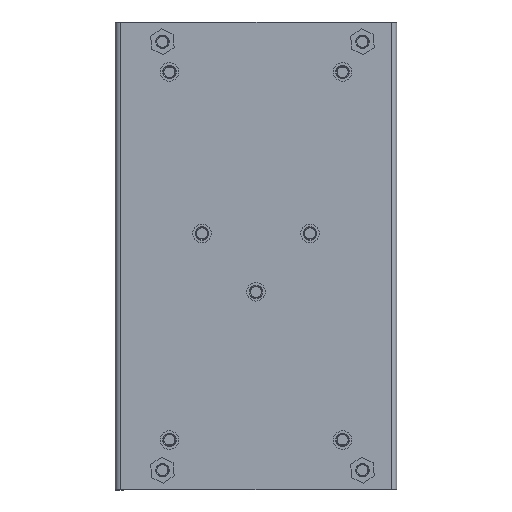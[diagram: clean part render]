
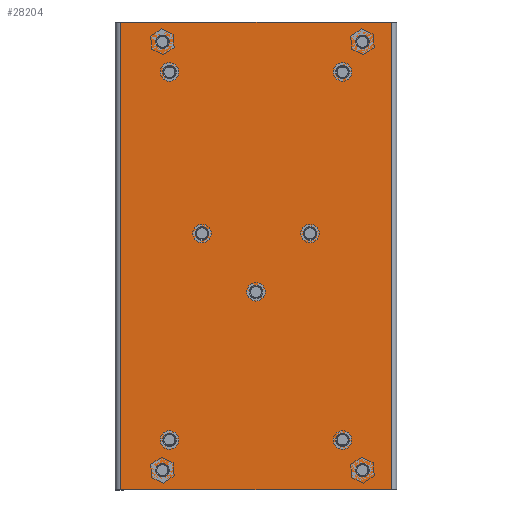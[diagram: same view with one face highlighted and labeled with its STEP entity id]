
A CAD part, front view. The second image highlights one B-rep face of the part: STEP entity #28204.
In plain terms, the highlighted planar face has unit normal (0, -1, 0).
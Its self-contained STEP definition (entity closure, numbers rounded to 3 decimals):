
#1895=FACE_BOUND($,#4764,.T.);
#1896=FACE_BOUND($,#4765,.T.);
#1897=FACE_BOUND($,#4766,.T.);
#1898=FACE_BOUND($,#4767,.T.);
#1899=FACE_BOUND($,#4768,.T.);
#1900=FACE_BOUND($,#4769,.T.);
#1901=FACE_BOUND($,#4770,.T.);
#1902=FACE_BOUND($,#4771,.T.);
#1903=FACE_BOUND($,#4772,.T.);
#1904=FACE_BOUND($,#4773,.T.);
#1905=FACE_BOUND($,#4774,.T.);
#2167=PLANE($,#29760);
#3276=FACE_OUTER_BOUND($,#4763,.T.);
#4763=EDGE_LOOP($,(#20011,#20012,#20013,#20014));
#4764=EDGE_LOOP($,(#20015));
#4765=EDGE_LOOP($,(#20016));
#4766=EDGE_LOOP($,(#20017));
#4767=EDGE_LOOP($,(#20018));
#4768=EDGE_LOOP($,(#20019));
#4769=EDGE_LOOP($,(#20020));
#4770=EDGE_LOOP($,(#20021));
#4771=EDGE_LOOP($,(#20022));
#4772=EDGE_LOOP($,(#20023));
#4773=EDGE_LOOP($,(#20024));
#4774=EDGE_LOOP($,(#20025));
#6514=LINE($,#38549,#9676);
#6522=LINE($,#38567,#9684);
#6525=LINE($,#38586,#9687);
#6526=LINE($,#38587,#9688);
#9676=VECTOR($,#31633,104.);
#9684=VECTOR($,#31645,60.1);
#9687=VECTOR($,#31664,104.);
#9688=VECTOR($,#31665,60.1);
#12846=CIRCLE($,#29761,1.5);
#12847=CIRCLE($,#29762,1.5);
#12848=CIRCLE($,#29763,1.5);
#12849=CIRCLE($,#29764,1.5);
#12850=CIRCLE($,#29765,1.5);
#12851=CIRCLE($,#29766,1.5);
#12852=CIRCLE($,#29767,1.5);
#12853=CIRCLE($,#29768,1.5);
#12854=CIRCLE($,#29769,1.5);
#12855=CIRCLE($,#29770,1.5);
#12856=CIRCLE($,#29771,1.5);
#13284=VERTEX_POINT($,#38542);
#13287=VERTEX_POINT($,#38547);
#13295=VERTEX_POINT($,#38565);
#13303=VERTEX_POINT($,#38585);
#13304=VERTEX_POINT($,#38588);
#13305=VERTEX_POINT($,#38590);
#13306=VERTEX_POINT($,#38592);
#13307=VERTEX_POINT($,#38594);
#13308=VERTEX_POINT($,#38596);
#13309=VERTEX_POINT($,#38598);
#13310=VERTEX_POINT($,#38600);
#13311=VERTEX_POINT($,#38602);
#13312=VERTEX_POINT($,#38604);
#13313=VERTEX_POINT($,#38606);
#13314=VERTEX_POINT($,#38608);
#15976=EDGE_CURVE($,#13287,#13284,#6514,.T.);
#15985=EDGE_CURVE($,#13295,#13287,#6522,.T.);
#15994=EDGE_CURVE($,#13303,#13295,#6525,.T.);
#15995=EDGE_CURVE($,#13303,#13284,#6526,.T.);
#15996=EDGE_CURVE($,#13304,#13304,#12846,.T.);
#15997=EDGE_CURVE($,#13305,#13305,#12847,.T.);
#15998=EDGE_CURVE($,#13306,#13306,#12848,.T.);
#15999=EDGE_CURVE($,#13307,#13307,#12849,.T.);
#16000=EDGE_CURVE($,#13308,#13308,#12850,.T.);
#16001=EDGE_CURVE($,#13309,#13309,#12851,.T.);
#16002=EDGE_CURVE($,#13310,#13310,#12852,.T.);
#16003=EDGE_CURVE($,#13311,#13311,#12853,.T.);
#16004=EDGE_CURVE($,#13312,#13312,#12854,.T.);
#16005=EDGE_CURVE($,#13313,#13313,#12855,.T.);
#16006=EDGE_CURVE($,#13314,#13314,#12856,.T.);
#20011=ORIENTED_EDGE($,*,*,#15976,.F.);
#20012=ORIENTED_EDGE($,*,*,#15985,.F.);
#20013=ORIENTED_EDGE($,*,*,#15994,.F.);
#20014=ORIENTED_EDGE($,*,*,#15995,.T.);
#20015=ORIENTED_EDGE($,*,*,#15996,.T.);
#20016=ORIENTED_EDGE($,*,*,#15997,.T.);
#20017=ORIENTED_EDGE($,*,*,#15998,.T.);
#20018=ORIENTED_EDGE($,*,*,#15999,.T.);
#20019=ORIENTED_EDGE($,*,*,#16000,.T.);
#20020=ORIENTED_EDGE($,*,*,#16001,.T.);
#20021=ORIENTED_EDGE($,*,*,#16002,.T.);
#20022=ORIENTED_EDGE($,*,*,#16003,.T.);
#20023=ORIENTED_EDGE($,*,*,#16004,.T.);
#20024=ORIENTED_EDGE($,*,*,#16005,.T.);
#20025=ORIENTED_EDGE($,*,*,#16006,.T.);
#28204=ADVANCED_FACE($,(#3276,#1895,#1896,#1897,#1898,#1899,#1900,#1901,
#1902,#1903,#1904,#1905),#2167,.T.);
#29760=AXIS2_PLACEMENT_3D($,#38584,#31662,#31663);
#29761=AXIS2_PLACEMENT_3D($,#38589,#31666,#31667);
#29762=AXIS2_PLACEMENT_3D($,#38591,#31668,#31669);
#29763=AXIS2_PLACEMENT_3D($,#38593,#31670,#31671);
#29764=AXIS2_PLACEMENT_3D($,#38595,#31672,#31673);
#29765=AXIS2_PLACEMENT_3D($,#38597,#31674,#31675);
#29766=AXIS2_PLACEMENT_3D($,#38599,#31676,#31677);
#29767=AXIS2_PLACEMENT_3D($,#38601,#31678,#31679);
#29768=AXIS2_PLACEMENT_3D($,#38603,#31680,#31681);
#29769=AXIS2_PLACEMENT_3D($,#38605,#31682,#31683);
#29770=AXIS2_PLACEMENT_3D($,#38607,#31684,#31685);
#29771=AXIS2_PLACEMENT_3D($,#38609,#31686,#31687);
#31633=DIRECTION($,(0.,0.,-1.));
#31645=DIRECTION($,(1.,0.,0.));
#31662=DIRECTION('center_axis',(0.,-1.,0.));
#31663=DIRECTION('ref_axis',(1.,0.,0.));
#31664=DIRECTION($,(0.,0.,1.));
#31665=DIRECTION($,(1.,0.,0.));
#31666=DIRECTION('center_axis',(0.,1.,0.));
#31667=DIRECTION('ref_axis',(0.,0.,-1.));
#31668=DIRECTION('center_axis',(0.,1.,0.));
#31669=DIRECTION('ref_axis',(0.,0.,-1.));
#31670=DIRECTION('center_axis',(0.,1.,0.));
#31671=DIRECTION('ref_axis',(0.,0.,-1.));
#31672=DIRECTION('center_axis',(0.,1.,0.));
#31673=DIRECTION('ref_axis',(0.,0.,-1.));
#31674=DIRECTION('center_axis',(0.,1.,0.));
#31675=DIRECTION('ref_axis',(0.,0.,1.));
#31676=DIRECTION('center_axis',(0.,1.,0.));
#31677=DIRECTION('ref_axis',(0.,0.,1.));
#31678=DIRECTION('center_axis',(0.,1.,0.));
#31679=DIRECTION('ref_axis',(0.,0.,1.));
#31680=DIRECTION('center_axis',(0.,1.,0.));
#31681=DIRECTION('ref_axis',(0.,0.,1.));
#31682=DIRECTION('center_axis',(0.,1.,0.));
#31683=DIRECTION('ref_axis',(0.,0.,1.));
#31684=DIRECTION('center_axis',(0.,1.,0.));
#31685=DIRECTION('ref_axis',(0.,0.,1.));
#31686=DIRECTION('center_axis',(0.,1.,0.));
#31687=DIRECTION('ref_axis',(0.,0.,1.));
#38542=CARTESIAN_POINT('',(30.05,0.,-52.));
#38547=CARTESIAN_POINT('',(30.05,0.,52.));
#38549=CARTESIAN_POINT($,(30.05,0.,-52.));
#38565=CARTESIAN_POINT('',(-30.05,0.,52.));
#38567=CARTESIAN_POINT($,(-29.8,0.,52.));
#38584=CARTESIAN_POINT('Origin',(-31.,0.,-52.));
#38585=CARTESIAN_POINT('',(-30.05,0.,-52.));
#38586=CARTESIAN_POINT($,(-30.05,0.,-52.));
#38587=CARTESIAN_POINT($,(-29.8,0.,-52.));
#38588=CARTESIAN_POINT('',(19.25,0.,-39.4));
#38589=CARTESIAN_POINT('Origin',(19.25,0.,-40.9));
#38590=CARTESIAN_POINT('',(19.25,0.,42.4));
#38591=CARTESIAN_POINT('Origin',(19.25,0.,40.9));
#38592=CARTESIAN_POINT('',(-19.25,0.,-39.4));
#38593=CARTESIAN_POINT('Origin',(-19.25,0.,-40.9));
#38594=CARTESIAN_POINT('',(-19.25,0.,42.4));
#38595=CARTESIAN_POINT('Origin',(-19.25,0.,40.9));
#38596=CARTESIAN_POINT('',(0.,0.,-9.476));
#38597=CARTESIAN_POINT('Origin',(0.,0.,-7.976));
#38598=CARTESIAN_POINT('',(-12.,0.,3.524));
#38599=CARTESIAN_POINT('Origin',(-12.,0.,5.024));
#38600=CARTESIAN_POINT('',(12.,0.,3.524));
#38601=CARTESIAN_POINT('Origin',(12.,0.,5.024));
#38602=CARTESIAN_POINT('',(-20.8,0.,46.1));
#38603=CARTESIAN_POINT('Origin',(-20.8,0.,47.6));
#38604=CARTESIAN_POINT('',(-20.8,0.,-49.1));
#38605=CARTESIAN_POINT('Origin',(-20.8,0.,-47.6));
#38606=CARTESIAN_POINT('',(23.65,0.,46.1));
#38607=CARTESIAN_POINT('Origin',(23.65,0.,47.6));
#38608=CARTESIAN_POINT('',(23.65,0.,-49.1));
#38609=CARTESIAN_POINT('Origin',(23.65,0.,-47.6));
